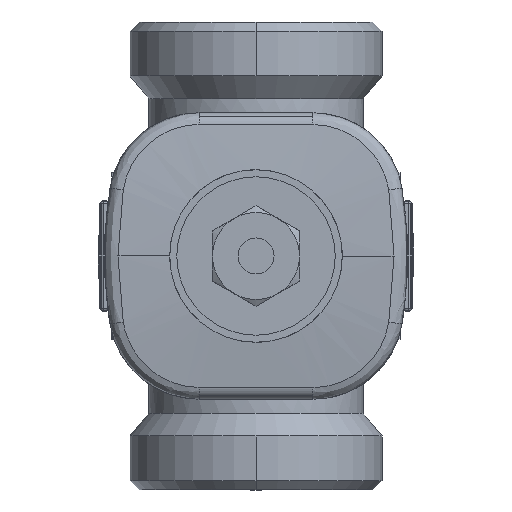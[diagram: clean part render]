
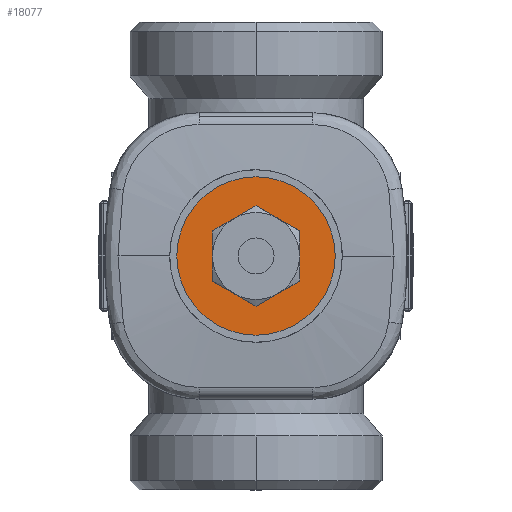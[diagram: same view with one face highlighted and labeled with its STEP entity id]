
A CAD part, front view. The second image highlights one B-rep face of the part: STEP entity #18077.
In plain terms, the highlighted planar face has unit normal (0, -1, 0).
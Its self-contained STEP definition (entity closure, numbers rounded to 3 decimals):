
#17922=CARTESIAN_POINT('',(0.,-74.0,43.0));
#17923=VERTEX_POINT('',#17922);
#17932=CARTESIAN_POINT('',(0.,-74.0,87.0));
#17933=VERTEX_POINT('',#17932);
#17934=CARTESIAN_POINT('',(0.,-74.0,65.0));
#17935=DIRECTION('',(0.0,1.0,0.0));
#17936=DIRECTION('',(0.0,0.0,-1.0));
#17937=AXIS2_PLACEMENT_3D('',#17934,#17935,#17936);
#17938=CIRCLE('',#17937,22.0);
#17939=EDGE_CURVE('',#17923,#17933,#17938,.T.);
#18029=CARTESIAN_POINT('',(0.,-74.0,65.0));
#18030=DIRECTION('',(0.0,1.0,0.0));
#18031=DIRECTION('',(0.0,0.0,-1.0));
#18032=AXIS2_PLACEMENT_3D('',#18029,#18030,#18031);
#18033=CIRCLE('',#18032,22.0);
#18034=EDGE_CURVE('',#17933,#17923,#18033,.T.);
#18068=CARTESIAN_POINT('',(0.,-74.0,65.0));
#18069=DIRECTION('',(0.0,1.0,0.0));
#18070=DIRECTION('',(1.0,0.0,0.0));
#18071=AXIS2_PLACEMENT_3D('',#18068,#18069,#18070);
#18072=PLANE('',#18071);
#18073=ORIENTED_EDGE('',*,*,#17939,.F.);
#18074=ORIENTED_EDGE('',*,*,#18034,.F.);
#18075=EDGE_LOOP('',(#18073,#18074));
#18076=FACE_OUTER_BOUND('',#18075,.T.);
#18077=ADVANCED_FACE('',(#18076),#18072,.F.);
